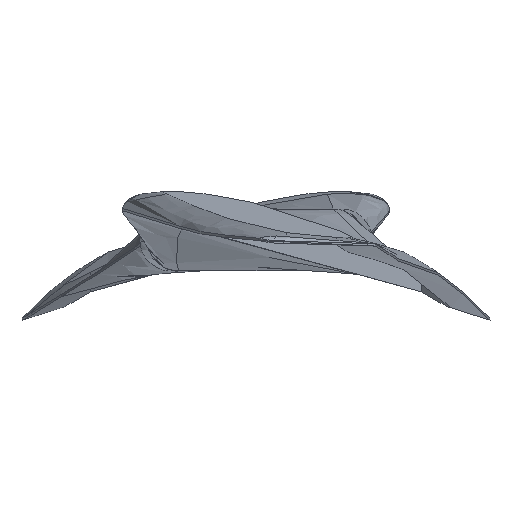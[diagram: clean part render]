
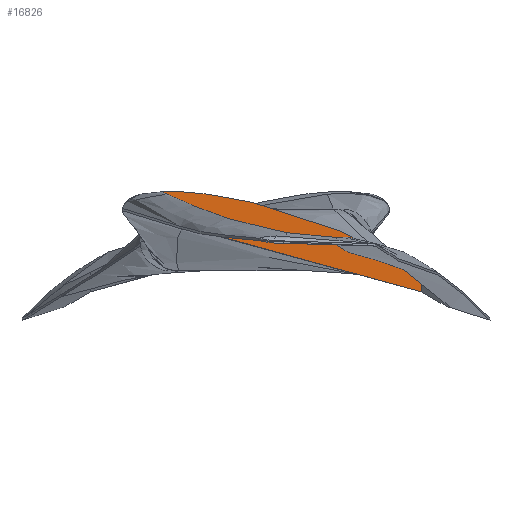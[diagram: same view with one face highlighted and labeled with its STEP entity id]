
A CAD part, left-side view. The second image highlights one B-rep face of the part: STEP entity #16826.
In plain terms, the highlighted planar face has unit normal (-1, 0, 0).
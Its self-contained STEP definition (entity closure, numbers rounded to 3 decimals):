
#16225=CARTESIAN_POINT('Vertex',(-170.,24.485,12.455)) ;
#16229=CARTESIAN_POINT('Control Point',(-170.,-42.707,-8.398)) ;
#16230=CARTESIAN_POINT('Control Point',(-170.,-40.871,-7.256)) ;
#16231=CARTESIAN_POINT('Control Point',(-170.,-39.009,-6.156)) ;
#16232=CARTESIAN_POINT('Control Point',(-170.,-37.124,-5.093)) ;
#16233=CARTESIAN_POINT('Control Point',(-170.,-34.177,-3.502)) ;
#16234=CARTESIAN_POINT('Control Point',(-170.,-31.19,-1.993)) ;
#16235=CARTESIAN_POINT('Control Point',(-170.,-30.127,-1.469)) ;
#16236=CARTESIAN_POINT('Control Point',(-170.,-25.41,0.797)) ;
#16237=CARTESIAN_POINT('Control Point',(-170.,-20.597,2.857)) ;
#16238=CARTESIAN_POINT('Control Point',(-170.,-16.823,4.321)) ;
#16239=CARTESIAN_POINT('Control Point',(-170.,-11.493,6.214)) ;
#16240=CARTESIAN_POINT('Control Point',(-170.,-6.084,7.856)) ;
#16241=CARTESIAN_POINT('Control Point',(-170.,-4.541,8.301)) ;
#16242=CARTESIAN_POINT('Control Point',(-170.,-2.262,8.922)) ;
#16243=CARTESIAN_POINT('Control Point',(-170.,0.03,9.49)) ;
#16244=CARTESIAN_POINT('Control Point',(-170.,0.763,9.666)) ;
#16245=CARTESIAN_POINT('Control Point',(-170.,2.212,10.002)) ;
#16246=CARTESIAN_POINT('Control Point',(-170.,3.666,10.317)) ;
#16247=CARTESIAN_POINT('Control Point',(-170.,4.382,10.466)) ;
#16248=CARTESIAN_POINT('Control Point',(-170.,5.805,10.751)) ;
#16249=CARTESIAN_POINT('Control Point',(-170.,7.233,11.015)) ;
#16250=CARTESIAN_POINT('Control Point',(-170.,7.942,11.14)) ;
#16251=CARTESIAN_POINT('Control Point',(-170.,9.353,11.379)) ;
#16252=CARTESIAN_POINT('Control Point',(-170.,10.767,11.595)) ;
#16253=CARTESIAN_POINT('Control Point',(-170.,11.467,11.697)) ;
#16254=CARTESIAN_POINT('Control Point',(-170.,12.672,11.861)) ;
#16255=CARTESIAN_POINT('Control Point',(-170.,13.88,12.006)) ;
#16256=CARTESIAN_POINT('Control Point',(-170.,14.382,12.064)) ;
#16257=CARTESIAN_POINT('Control Point',(-170.,15.36,12.168)) ;
#16258=CARTESIAN_POINT('Control Point',(-170.,16.338,12.258)) ;
#16259=CARTESIAN_POINT('Control Point',(-170.,16.815,12.298)) ;
#16260=CARTESIAN_POINT('Control Point',(-170.,17.598,12.358)) ;
#16261=CARTESIAN_POINT('Control Point',(-170.,18.382,12.407)) ;
#16262=CARTESIAN_POINT('Control Point',(-170.,18.69,12.425)) ;
#16263=CARTESIAN_POINT('Control Point',(-170.,19.138,12.448)) ;
#16264=CARTESIAN_POINT('Control Point',(-170.,19.585,12.468)) ;
#16265=CARTESIAN_POINT('Control Point',(-170.,19.721,12.473)) ;
#16266=CARTESIAN_POINT('Control Point',(-170.,20.,12.484)) ;
#16267=CARTESIAN_POINT('Control Point',(-170.,20.278,12.493)) ;
#16268=CARTESIAN_POINT('Control Point',(-170.,20.417,12.497)) ;
#16269=CARTESIAN_POINT('Control Point',(-170.,20.834,12.508)) ;
#16270=CARTESIAN_POINT('Control Point',(-170.,21.251,12.515)) ;
#16271=CARTESIAN_POINT('Control Point',(-170.,21.527,12.518)) ;
#16272=CARTESIAN_POINT('Control Point',(-170.,22.286,12.522)) ;
#16273=CARTESIAN_POINT('Control Point',(-170.,23.045,12.512)) ;
#16274=CARTESIAN_POINT('Control Point',(-170.,23.524,12.5)) ;
#16275=CARTESIAN_POINT('Control Point',(-170.,24.005,12.481)) ;
#16276=CARTESIAN_POINT('Control Point',(-170.,24.485,12.455)) ;
#16277=CARTESIAN_POINT('Vertex',(-170.,-42.707,-8.398)) ;
#16551=CARTESIAN_POINT('Vertex',(-170.,-42.707,-13.418)) ;
#16557=CARTESIAN_POINT('Control Point',(-170.,-42.707,-13.418)) ;
#16558=CARTESIAN_POINT('Control Point',(-170.,-20.305,-7.227)) ;
#16559=CARTESIAN_POINT('Control Point',(-170.,2.092,-1.049)) ;
#16560=CARTESIAN_POINT('Control Point',(-170.,24.485,5.118)) ;
#16561=CARTESIAN_POINT('Vertex',(-170.,24.485,5.118)) ;
#16751=CARTESIAN_POINT('Line Origine',(-170.,24.485,-8.)) ;
#16803=CARTESIAN_POINT('Line Origine',(-170.,-42.707,-8.)) ;
#16815=CARTESIAN_POINT('Axis2P3D Location',(-170.,24.485,-8.)) ;
#16752=DIRECTION('Vector Direction',(0.,0.,1.)) ;
#16804=DIRECTION('Vector Direction',(0.,0.,1.)) ;
#16816=DIRECTION('Axis2P3D Direction',(-1.,0.,0.)) ;
#16817=DIRECTION('Axis2P3D XDirection',(0.,-1.,0.)) ;
#16818=AXIS2_PLACEMENT_3D('Plane Axis2P3D',#16815,#16816,#16817) ;
#16821=ORIENTED_EDGE('',*,*,#16563,.F.) ;
#16822=ORIENTED_EDGE('',*,*,#16807,.T.) ;
#16823=ORIENTED_EDGE('',*,*,#16279,.T.) ;
#16824=ORIENTED_EDGE('',*,*,#16755,.F.) ;
#16753=VECTOR('Line Direction',#16752,1.) ;
#16805=VECTOR('Line Direction',#16804,1.) ;
#16826=ADVANCED_FACE('WF57',(#16825),#16819,.T.) ;
#16228=B_SPLINE_CURVE_WITH_KNOTS('',5,(#16229,#16230,#16231,#16232,#16233,#16234,#16235,#16236,#16237,#16238,#16239,#16240,#16241,#16242,#16243,#16244,#16245,#16246,#16247,#16248,#16249,#16250,#16251,#16252,#16253,#16254,#16255,#16256,#16257,#16258,#16259,#16260,#16261,#16262,#16263,#16264,#16265,#16266,#16267,#16268,#16269,#16270,#16271,#16272,#16273,#16274,#16275,#16276),.UNSPECIFIED.,.F.,.U.,(6,3,3,3,3,3,3,3,3,3,3,3,3,3,3,6),(0.,13.29,20.574,45.448,55.317,59.966,64.461,68.889,73.253,76.362,79.291,81.186,82.044,82.897,84.607,87.56),.UNSPECIFIED.) ;
#16556=B_SPLINE_CURVE_WITH_KNOTS('',3,(#16557,#16558,#16559,#16560),.UNSPECIFIED.,.F.,.U.,(4,4),(0.,84.717),.UNSPECIFIED.) ;
#16279=EDGE_CURVE('',#16278,#16226,#16228,.T.) ;
#16563=EDGE_CURVE('',#16552,#16562,#16556,.T.) ;
#16755=EDGE_CURVE('',#16562,#16226,#16754,.T.) ;
#16807=EDGE_CURVE('',#16552,#16278,#16806,.T.) ;
#16820=EDGE_LOOP('',(#16821,#16822,#16823,#16824)) ;
#16825=FACE_OUTER_BOUND('',#16820,.T.) ;
#16754=LINE('Line',#16751,#16753) ;
#16806=LINE('Line',#16803,#16805) ;
#16819=PLANE('',#16818) ;
#16226=VERTEX_POINT('',#16225) ;
#16278=VERTEX_POINT('',#16277) ;
#16552=VERTEX_POINT('',#16551) ;
#16562=VERTEX_POINT('',#16561) ;
